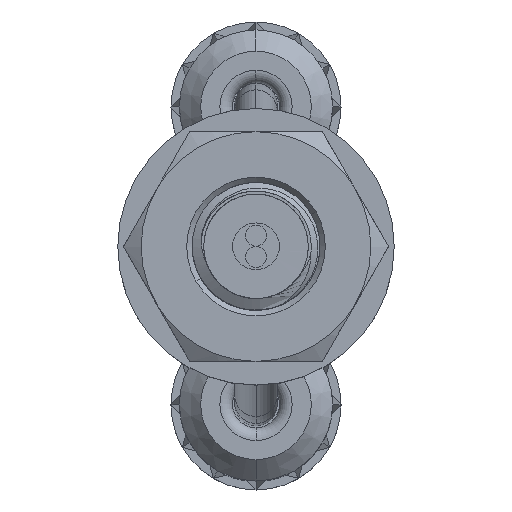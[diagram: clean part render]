
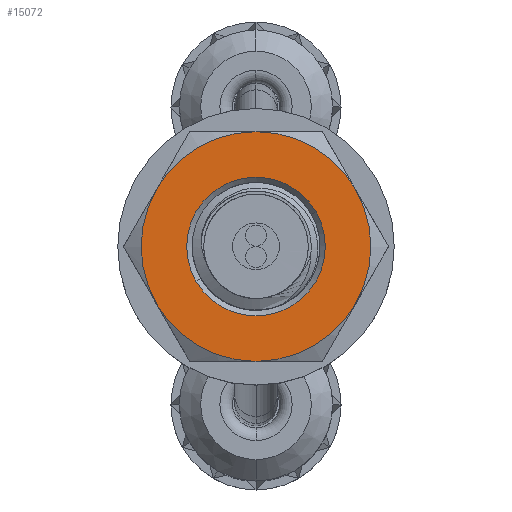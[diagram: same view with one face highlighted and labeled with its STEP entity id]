
A CAD part, top view. The second image highlights one B-rep face of the part: STEP entity #15072.
In plain terms, the highlighted planar face has unit normal (0, 0, 1).
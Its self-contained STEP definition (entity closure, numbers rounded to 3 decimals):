
#195 = VERTEX_POINT ( 'NONE', #9428 ) ;
#288 = ORIENTED_EDGE ( 'NONE', *, *, #9789, .T. ) ;
#361 = DIRECTION ( 'NONE',  ( 0., 0., 1. ) ) ;
#466 = AXIS2_PLACEMENT_3D ( 'NONE', #16417, #17893, #7567 ) ;
#828 = DIRECTION ( 'NONE',  ( 0., 0., 1. ) ) ;
#866 = EDGE_CURVE ( 'NONE', #3932, #5737, #2046, .T. ) ;
#904 = CIRCLE ( 'NONE', #18965, 2.7 ) ;
#1659 = FACE_BOUND ( 'NONE', #14506, .T. ) ;
#2046 = CIRCLE ( 'NONE', #10753, 2.7 ) ;
#2478 = AXIS2_PLACEMENT_3D ( 'NONE', #9692, #828, #15650 ) ;
#2595 = VERTEX_POINT ( 'NONE', #15101 ) ;
#2809 = FACE_OUTER_BOUND ( 'NONE', #17376, .T. ) ;
#3030 = DIRECTION ( 'NONE',  ( 0., 0., -1. ) ) ;
#3415 = DIRECTION ( 'NONE',  ( 0.866, 0.5, 0. ) ) ;
#3713 = AXIS2_PLACEMENT_3D ( 'NONE', #13912, #8039, #10788 ) ;
#3780 = DIRECTION ( 'NONE',  ( 0., 0., 1. ) ) ;
#3874 = ORIENTED_EDGE ( 'NONE', *, *, #866, .T. ) ;
#3916 = CARTESIAN_POINT ( 'NONE',  ( -43.14, 9.569, 17.882 ) ) ;
#3932 = VERTEX_POINT ( 'NONE', #6642 ) ;
#3969 = EDGE_CURVE ( 'NONE', #11726, #10968, #14215, .T. ) ;
#3978 = CARTESIAN_POINT ( 'NONE',  ( -43.14, 9.569, 17.882 ) ) ;
#4213 = CARTESIAN_POINT ( 'NONE',  ( -43.14, 9.569, 17.882 ) ) ;
#4750 = CIRCLE ( 'NONE', #466, 2.7 ) ;
#4759 = ORIENTED_EDGE ( 'NONE', *, *, #17322, .T. ) ;
#5158 = AXIS2_PLACEMENT_3D ( 'NONE', #4213, #7157, #18772 ) ;
#5297 = PLANE ( 'NONE',  #2478 ) ;
#5674 = VERTEX_POINT ( 'NONE', #6200 ) ;
#5737 = VERTEX_POINT ( 'NONE', #10710 ) ;
#6200 = CARTESIAN_POINT ( 'NONE',  ( -43.14, 12.269, 17.882 ) ) ;
#6642 = CARTESIAN_POINT ( 'NONE',  ( -45.478, 10.919, 17.882 ) ) ;
#6845 = AXIS2_PLACEMENT_3D ( 'NONE', #9952, #11556, #13007 ) ;
#7143 = CARTESIAN_POINT ( 'NONE',  ( -40.801, 8.219, 17.882 ) ) ;
#7157 = DIRECTION ( 'NONE',  ( 0., 0., 1. ) ) ;
#7567 = DIRECTION ( 'NONE',  ( 0.866, 0.5, 0. ) ) ;
#7862 = EDGE_CURVE ( 'NONE', #195, #11726, #18698, .T. ) ;
#8039 = DIRECTION ( 'NONE',  ( 0., 0., -1. ) ) ;
#9428 = CARTESIAN_POINT ( 'NONE',  ( -43.14, 6.869, 17.882 ) ) ;
#9578 = CIRCLE ( 'NONE', #18729, 1.63 ) ;
#9692 = CARTESIAN_POINT ( 'NONE',  ( -43.14, 9.569, 17.882 ) ) ;
#9789 = EDGE_CURVE ( 'NONE', #10968, #5674, #4750, .T. ) ;
#9952 = CARTESIAN_POINT ( 'NONE',  ( -43.14, 9.569, 17.882 ) ) ;
#10710 = CARTESIAN_POINT ( 'NONE',  ( -45.478, 8.219, 17.882 ) ) ;
#10753 = AXIS2_PLACEMENT_3D ( 'NONE', #12154, #361, #3415 ) ;
#10788 = DIRECTION ( 'NONE',  ( 0.866, 0.5, 0. ) ) ;
#10874 = EDGE_CURVE ( 'NONE', #2595, #17866, #14090, .T. ) ;
#10968 = VERTEX_POINT ( 'NONE', #15333 ) ;
#11556 = DIRECTION ( 'NONE',  ( 0., 0., 1. ) ) ;
#11726 = VERTEX_POINT ( 'NONE', #7143 ) ;
#12117 = DIRECTION ( 'NONE',  ( 0.866, 0.5, 0. ) ) ;
#12154 = CARTESIAN_POINT ( 'NONE',  ( -43.14, 9.569, 17.882 ) ) ;
#12665 = ORIENTED_EDGE ( 'NONE', *, *, #16234, .T. ) ;
#13007 = DIRECTION ( 'NONE',  ( 0.866, 0.5, 0. ) ) ;
#13771 = ORIENTED_EDGE ( 'NONE', *, *, #7862, .T. ) ;
#13912 = CARTESIAN_POINT ( 'NONE',  ( -43.14, 9.569, 17.882 ) ) ;
#14090 = CIRCLE ( 'NONE', #3713, 1.63 ) ;
#14215 = CIRCLE ( 'NONE', #18864, 2.7 ) ;
#14506 = EDGE_LOOP ( 'NONE', ( #15516, #14869 ) ) ;
#14733 = CARTESIAN_POINT ( 'NONE',  ( -43.14, 9.569, 17.882 ) ) ;
#14869 = ORIENTED_EDGE ( 'NONE', *, *, #18333, .T. ) ;
#15072 = ADVANCED_FACE ( 'NONE', ( #1659, #2809 ), #5297, .T. ) ;
#15101 = CARTESIAN_POINT ( 'NONE',  ( -41.729, 10.383, 17.882 ) ) ;
#15333 = CARTESIAN_POINT ( 'NONE',  ( -40.801, 10.919, 17.882 ) ) ;
#15516 = ORIENTED_EDGE ( 'NONE', *, *, #10874, .T. ) ;
#15650 = DIRECTION ( 'NONE',  ( 0.866, 0.5, 0. ) ) ;
#16218 = CIRCLE ( 'NONE', #6845, 2.7 ) ;
#16234 = EDGE_CURVE ( 'NONE', #5674, #3932, #16218, .T. ) ;
#16352 = ORIENTED_EDGE ( 'NONE', *, *, #3969, .T. ) ;
#16417 = CARTESIAN_POINT ( 'NONE',  ( -43.14, 9.569, 17.882 ) ) ;
#17322 = EDGE_CURVE ( 'NONE', #5737, #195, #904, .T. ) ;
#17376 = EDGE_LOOP ( 'NONE', ( #16352, #288, #12665, #3874, #4759, #13771 ) ) ;
#17866 = VERTEX_POINT ( 'NONE', #18036 ) ;
#17893 = DIRECTION ( 'NONE',  ( 0., 0., 1. ) ) ;
#18036 = CARTESIAN_POINT ( 'NONE',  ( -44.551, 8.754, 17.882 ) ) ;
#18333 = EDGE_CURVE ( 'NONE', #17866, #2595, #9578, .T. ) ;
#18574 = DIRECTION ( 'NONE',  ( 0.866, 0.5, 0. ) ) ;
#18698 = CIRCLE ( 'NONE', #5158, 2.7 ) ;
#18729 = AXIS2_PLACEMENT_3D ( 'NONE', #14733, #3030, #19187 ) ;
#18770 = DIRECTION ( 'NONE',  ( 0., 0., 1. ) ) ;
#18772 = DIRECTION ( 'NONE',  ( 0.866, 0.5, 0. ) ) ;
#18864 = AXIS2_PLACEMENT_3D ( 'NONE', #3916, #18770, #18574 ) ;
#18965 = AXIS2_PLACEMENT_3D ( 'NONE', #3978, #3780, #12117 ) ;
#19187 = DIRECTION ( 'NONE',  ( 0.866, 0.5, 0. ) ) ;
